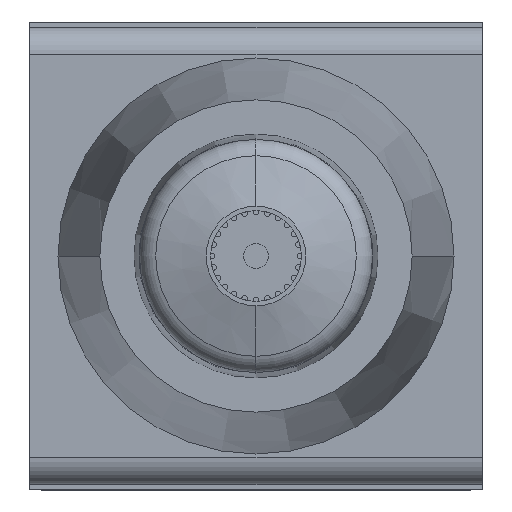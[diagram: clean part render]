
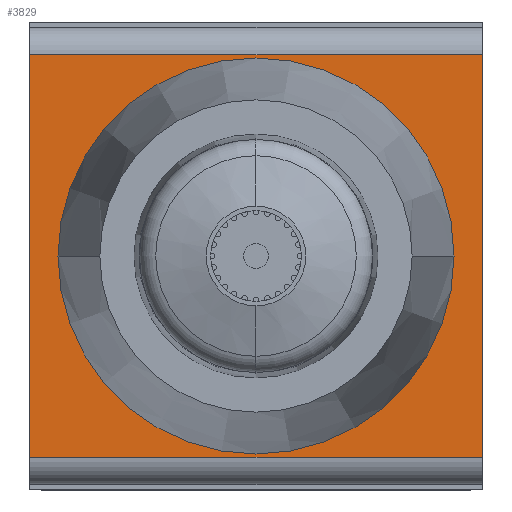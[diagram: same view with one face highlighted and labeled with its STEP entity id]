
A CAD part, front view. The second image highlights one B-rep face of the part: STEP entity #3829.
In plain terms, the highlighted planar face has unit normal (0, -1, 0).
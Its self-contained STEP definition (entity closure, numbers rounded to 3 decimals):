
#199=DIRECTION('',(0.,0.,-1.));
#200=VECTOR('',#199,89.);
#201=CARTESIAN_POINT('',(50.,-50.75,44.5));
#202=LINE('',#201,#200);
#349=DIRECTION('',(0.,0.,-1.));
#350=VECTOR('',#349,89.);
#351=CARTESIAN_POINT('',(-50.,-50.75,44.5));
#352=LINE('',#351,#350);
#1371=DIRECTION('',(1.,0.,0.));
#1372=VECTOR('',#1371,100.);
#1373=CARTESIAN_POINT('',(-50.,-50.75,-44.5));
#1374=LINE('',#1373,#1372);
#1375=DIRECTION('',(1.,0.,0.));
#1376=VECTOR('',#1375,100.);
#1377=CARTESIAN_POINT('',(-50.,-50.75,44.5));
#1378=LINE('',#1377,#1376);
#1379=CARTESIAN_POINT('',(0.,-50.75,0.));
#1380=DIRECTION('',(0.,-1.,0.));
#1381=DIRECTION('',(-1.,0.,0.));
#1382=AXIS2_PLACEMENT_3D('',#1379,#1380,#1381);
#1384=CARTESIAN_POINT('',(0.,-50.75,0.));
#1385=DIRECTION('',(0.,-1.,0.));
#1386=DIRECTION('',(1.,0.,0.));
#1387=AXIS2_PLACEMENT_3D('',#1384,#1385,#1386);
#1556=CARTESIAN_POINT('',(-50.,-50.75,44.5));
#1557=VERTEX_POINT('',#1556);
#1558=CARTESIAN_POINT('',(-50.,-50.75,-44.5));
#1559=VERTEX_POINT('',#1558);
#1588=CARTESIAN_POINT('',(50.,-50.75,44.5));
#1589=VERTEX_POINT('',#1588);
#1590=CARTESIAN_POINT('',(50.,-50.75,-44.5));
#1591=VERTEX_POINT('',#1590);
#1758=CARTESIAN_POINT('',(-43.75,-50.75,0.));
#1759=CARTESIAN_POINT('',(43.75,-50.75,0.));
#1760=VERTEX_POINT('',#1758);
#1761=VERTEX_POINT('',#1759);
#3811=CARTESIAN_POINT('',(-50.,-50.75,44.5));
#3812=DIRECTION('',(0.,-1.,0.));
#3813=DIRECTION('',(0.,0.,-1.));
#3814=AXIS2_PLACEMENT_3D('',#3811,#3812,#3813);
#3815=PLANE('',#3814);
#3816=ORIENTED_EDGE('',*,*,#2310,.F.);
#3818=ORIENTED_EDGE('',*,*,#3817,.T.);
#3819=ORIENTED_EDGE('',*,*,#2097,.T.);
#3820=ORIENTED_EDGE('',*,*,#3804,.F.);
#3821=EDGE_LOOP('',(#3816,#3818,#3819,#3820));
#3822=FACE_OUTER_BOUND('',#3821,.F.);
#3824=ORIENTED_EDGE('',*,*,#3823,.T.);
#3826=ORIENTED_EDGE('',*,*,#3825,.T.);
#3827=EDGE_LOOP('',(#3824,#3826));
#3828=FACE_BOUND('',#3827,.F.);
#3829=ADVANCED_FACE('',(#3822,#3828),#3815,.T.);
#1383=CIRCLE('',#1382,43.75);
#1388=CIRCLE('',#1387,43.75);
#2097=EDGE_CURVE('',#1589,#1591,#202,.T.);
#2310=EDGE_CURVE('',#1557,#1559,#352,.T.);
#3804=EDGE_CURVE('',#1559,#1591,#1374,.T.);
#3817=EDGE_CURVE('',#1557,#1589,#1378,.T.);
#3823=EDGE_CURVE('',#1760,#1761,#1383,.T.);
#3825=EDGE_CURVE('',#1761,#1760,#1388,.T.);
